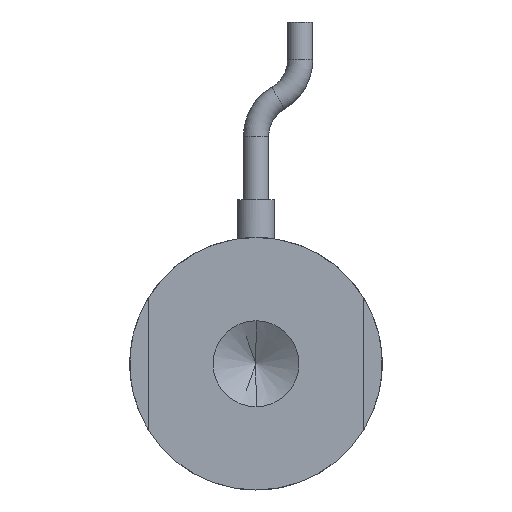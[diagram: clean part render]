
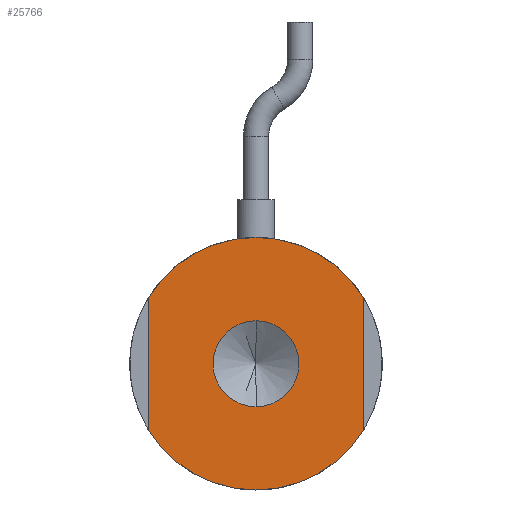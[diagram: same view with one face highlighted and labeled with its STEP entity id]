
A CAD part, front view. The second image highlights one B-rep face of the part: STEP entity #25766.
In plain terms, the highlighted planar face has unit normal (0, -1, 0).
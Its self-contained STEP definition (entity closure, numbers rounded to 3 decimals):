
#1400 = VECTOR ( 'NONE', #30690, 1000. ) ;
#1991 = ORIENTED_EDGE ( 'NONE', *, *, #18941, .F. ) ;
#2237 = ORIENTED_EDGE ( 'NONE', *, *, #15221, .F. ) ;
#2772 = CIRCLE ( 'NONE', #22366, 10. ) ;
#2938 = PLANE ( 'NONE',  #37507 ) ;
#3490 = CARTESIAN_POINT ( 'NONE',  ( -8.5, 0., 5.268 ) ) ;
#3935 = CIRCLE ( 'NONE', #8937, 10. ) ;
#4386 = CARTESIAN_POINT ( 'NONE',  ( 0., 0., -3.4 ) ) ;
#4462 = DIRECTION ( 'NONE',  ( 0., 1., 0. ) ) ;
#4573 = DIRECTION ( 'NONE',  ( 0., 0., -1. ) ) ;
#6406 = DIRECTION ( 'NONE',  ( 0., 0., 1. ) ) ;
#6800 = EDGE_CURVE ( 'NONE', #15601, #40349, #34816, .T. ) ;
#7052 = VECTOR ( 'NONE', #4573, 1000. ) ;
#7219 = EDGE_LOOP ( 'NONE', ( #1991, #41085 ) ) ;
#8937 = AXIS2_PLACEMENT_3D ( 'NONE', #25246, #4462, #28774 ) ;
#9164 = DIRECTION ( 'NONE',  ( 0., 1., 0. ) ) ;
#9256 = DIRECTION ( 'NONE',  ( 0., -1., 0. ) ) ;
#9339 = FACE_BOUND ( 'NONE', #7219, .T. ) ;
#9639 = DIRECTION ( 'NONE',  ( 0., 1., 0. ) ) ;
#10312 = ORIENTED_EDGE ( 'NONE', *, *, #27887, .F. ) ;
#10406 = FACE_OUTER_BOUND ( 'NONE', #44775, .T. ) ;
#12312 = AXIS2_PLACEMENT_3D ( 'NONE', #30463, #9639, #33977 ) ;
#12532 = CARTESIAN_POINT ( 'NONE',  ( 0., 0., 0. ) ) ;
#13185 = ORIENTED_EDGE ( 'NONE', *, *, #6800, .F. ) ;
#15221 = EDGE_CURVE ( 'NONE', #31199, #41434, #44172, .T. ) ;
#15601 = VERTEX_POINT ( 'NONE', #40907 ) ;
#16014 = DIRECTION ( 'NONE',  ( 0., 0., -1. ) ) ;
#16297 = CIRCLE ( 'NONE', #32940, 10. ) ;
#17019 = DIRECTION ( 'NONE',  ( 0., 1., 0. ) ) ;
#18941 = EDGE_CURVE ( 'NONE', #38696, #36372, #32391, .T. ) ;
#19376 = ORIENTED_EDGE ( 'NONE', *, *, #36899, .F. ) ;
#22366 = AXIS2_PLACEMENT_3D ( 'NONE', #29994, #9164, #33513 ) ;
#24356 = CARTESIAN_POINT ( 'NONE',  ( -8.5, 0., -5.268 ) ) ;
#24548 = EDGE_CURVE ( 'NONE', #41434, #36070, #3935, .T. ) ;
#25246 = CARTESIAN_POINT ( 'NONE',  ( 0., 0., 0. ) ) ;
#25766 = ADVANCED_FACE ( 'NONE', ( #9339, #10406 ), #2938, .F. ) ;
#27224 = DIRECTION ( 'NONE',  ( 0., 1., 0. ) ) ;
#27887 = EDGE_CURVE ( 'NONE', #40349, #41057, #2772, .T. ) ;
#28774 = DIRECTION ( 'NONE',  ( 0., 0., 1. ) ) ;
#29836 = CIRCLE ( 'NONE', #40365, 3.4 ) ;
#29994 = CARTESIAN_POINT ( 'NONE',  ( 0., 0., 0. ) ) ;
#30077 = CARTESIAN_POINT ( 'NONE',  ( 0., 0., 0. ) ) ;
#30463 = CARTESIAN_POINT ( 'NONE',  ( 0., 0., 0. ) ) ;
#30642 = EDGE_CURVE ( 'NONE', #41057, #31199, #16297, .T. ) ;
#30690 = DIRECTION ( 'NONE',  ( 0., 0., 1. ) ) ;
#31199 = VERTEX_POINT ( 'NONE', #24356 ) ;
#31849 = EDGE_CURVE ( 'NONE', #36372, #38696, #29836, .T. ) ;
#32391 = CIRCLE ( 'NONE', #36507, 3.4 ) ;
#32940 = AXIS2_PLACEMENT_3D ( 'NONE', #37823, #17019, #41223 ) ;
#33513 = DIRECTION ( 'NONE',  ( 0., 0., 1. ) ) ;
#33533 = CIRCLE ( 'NONE', #12312, 10. ) ;
#33592 = DIRECTION ( 'NONE',  ( 0., 0., -1. ) ) ;
#33977 = DIRECTION ( 'NONE',  ( 0., 0., 1. ) ) ;
#34101 = CARTESIAN_POINT ( 'NONE',  ( 0., 0., 0. ) ) ;
#34816 = LINE ( 'NONE', #42591, #7052 ) ;
#34988 = CARTESIAN_POINT ( 'NONE',  ( 0., 0., 10. ) ) ;
#36070 = VERTEX_POINT ( 'NONE', #34988 ) ;
#36372 = VERTEX_POINT ( 'NONE', #43881 ) ;
#36507 = AXIS2_PLACEMENT_3D ( 'NONE', #12532, #36838, #16014 ) ;
#36838 = DIRECTION ( 'NONE',  ( 0., -1., 0. ) ) ;
#36899 = EDGE_CURVE ( 'NONE', #36070, #15601, #33533, .T. ) ;
#37092 = ORIENTED_EDGE ( 'NONE', *, *, #30642, .F. ) ;
#37507 = AXIS2_PLACEMENT_3D ( 'NONE', #34101, #27224, #6406 ) ;
#37823 = CARTESIAN_POINT ( 'NONE',  ( 0., 0., 0. ) ) ;
#38324 = CARTESIAN_POINT ( 'NONE',  ( 0., 0., -10. ) ) ;
#38696 = VERTEX_POINT ( 'NONE', #4386 ) ;
#40349 = VERTEX_POINT ( 'NONE', #40901 ) ;
#40365 = AXIS2_PLACEMENT_3D ( 'NONE', #30077, #9256, #33592 ) ;
#40901 = CARTESIAN_POINT ( 'NONE',  ( 8.5, 0., -5.268 ) ) ;
#40907 = CARTESIAN_POINT ( 'NONE',  ( 8.5, 0., 5.268 ) ) ;
#41057 = VERTEX_POINT ( 'NONE', #38324 ) ;
#41085 = ORIENTED_EDGE ( 'NONE', *, *, #31849, .F. ) ;
#41223 = DIRECTION ( 'NONE',  ( 0., 0., 1. ) ) ;
#41232 = CARTESIAN_POINT ( 'NONE',  ( -8.5, 0., 0. ) ) ;
#41434 = VERTEX_POINT ( 'NONE', #3490 ) ;
#42591 = CARTESIAN_POINT ( 'NONE',  ( 8.5, 0., 0. ) ) ;
#43565 = ORIENTED_EDGE ( 'NONE', *, *, #24548, .F. ) ;
#43881 = CARTESIAN_POINT ( 'NONE',  ( 0., 0., 3.4 ) ) ;
#44172 = LINE ( 'NONE', #41232, #1400 ) ;
#44775 = EDGE_LOOP ( 'NONE', ( #2237, #37092, #10312, #13185, #19376, #43565 ) ) ;
